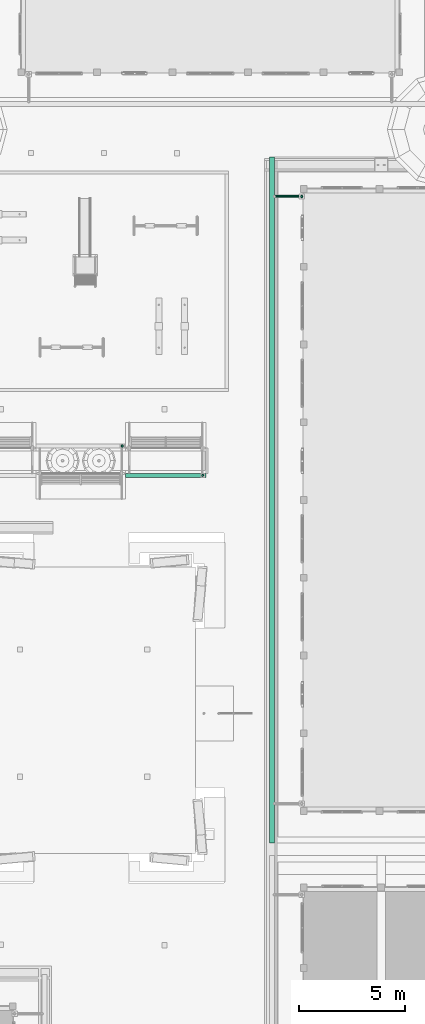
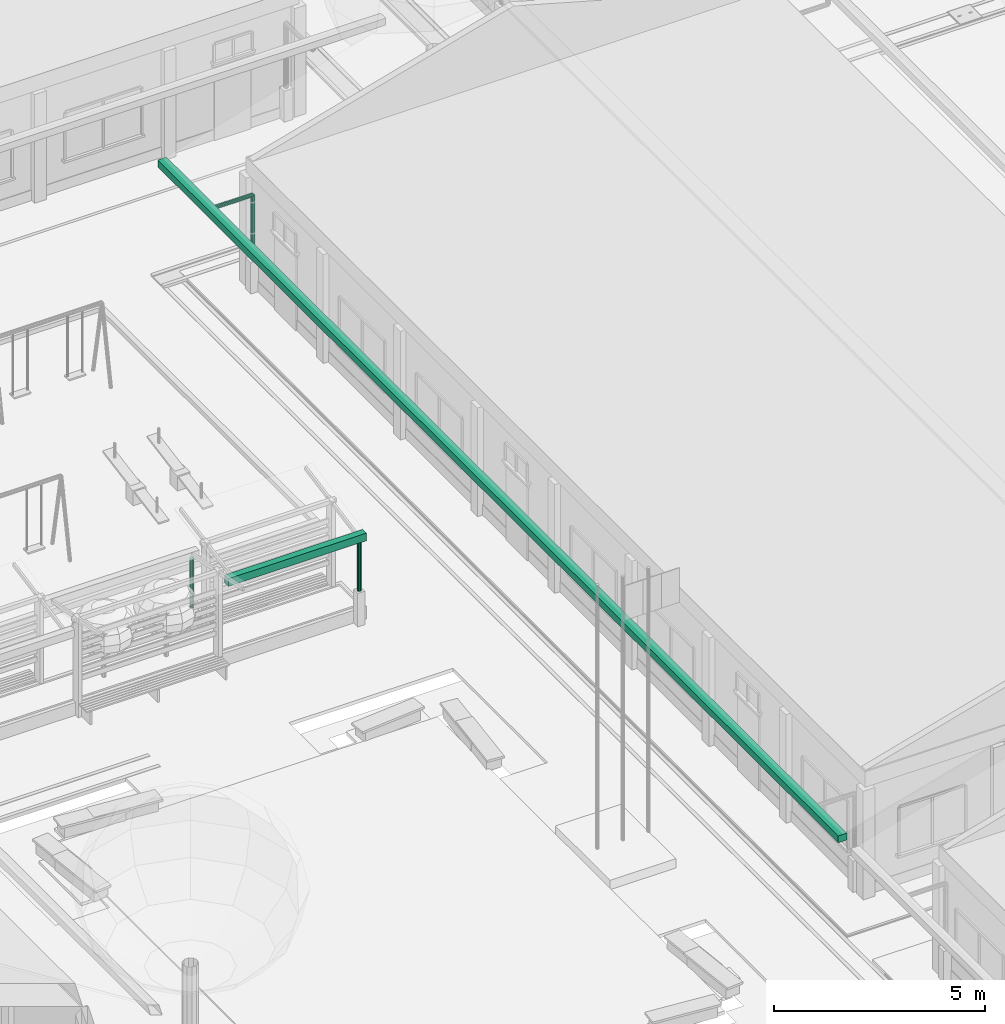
# One storey, part 107 of 177: 6 pipe segments.
"""IFC4 building model written with IfcOpenShell, lengths in metres."""

from ifc_helpers import new_model, si_unit, origin, origin_with_axes, place, context, subcontext, project, spatial, triangles, element, save


model = new_model("IFC4")

# Units and contexts
model_context = context("Model", 3, precision=1e-05, world=origin_with_axes())
body_context = subcontext(model_context, "Body", "Model", "MODEL_VIEW")
ifc_project = project(units=[si_unit("LENGTHUNIT", "METRE"), si_unit("AREAUNIT", "SQUARE_METRE"), si_unit("VOLUMEUNIT", "CUBIC_METRE"), si_unit("PLANEANGLEUNIT", "RADIAN")], contexts=[model_context])

# Site, building, storey
site_placement = place(None, origin_with_axes())
site = spatial("IfcSite", under=ifc_project, at=site_placement, Name="Predio Los Mangos - Morales, San Martín", CompositionType="ELEMENT")
building_placement = place(site_placement, origin())
building = spatial("IfcBuilding", under=site, at=building_placement, Name="Hogar de Refugio Temporal", CompositionType="ELEMENT")
storey_placement = place(building_placement, origin())
storey = spatial("IfcBuildingStorey", under=building, at=storey_placement, Name="NIVEL 1 (NPT +0.00)", CompositionType="ELEMENT", Elevation=0.0)

# Pipe segments
pipe_segment_1_placement = place(storey_placement, origin())
element("IfcPipeSegment", 1, at=pipe_segment_1_placement, inside=storey, Name="E-05_canaleta", ObjectType="Canaleta", PredefinedType="GUTTER", context=body_context, shape_type="Tessellation", body=[
    triangles([(43.68, 56.4, 3.13), (43.92, 56.4, 3.13), (43.92, 88.7, 3.13), (43.68, 88.7, 3.13), (43.68, 56.4, 3.33), (43.92, 56.4, 3.33), (43.92, 88.7, 3.33), (43.68, 88.7, 3.33)], [[1, 4, 3], [1, 3, 2], [5, 6, 7], [5, 7, 8], [1, 2, 6], [1, 6, 5], [2, 3, 7], [2, 7, 6], [3, 4, 8], [3, 8, 7], [4, 1, 5], [4, 5, 8]]),
])
pipe_segment_2_placement = place(storey_placement, origin())
element("IfcPipeSegment", 2, at=pipe_segment_2_placement, inside=storey, Name="montante_desvio", ObjectType="Montante PVC 4\"", PredefinedType="RIGIDSEGMENT", context=body_context, shape_type="Tessellation", body=[
    triangles([(43.92, 86.85, 2.965), (45.21, 86.85, 2.965), (43.92, 86.8775, 2.9576), (45.21, 86.8775, 2.9576), (43.92, 86.8976, 2.9375), (45.21, 86.8976, 2.9375), (43.92, 86.905, 2.91), (45.21, 86.905, 2.91), (43.92, 86.8976, 2.8825), (45.21, 86.8976, 2.8825), (43.92, 86.8775, 2.8624), (45.21, 86.8775, 2.8624), (43.92, 86.85, 2.855), (45.21, 86.85, 2.855), (43.92, 86.8225, 2.8624), (45.21, 86.8225, 2.8624), (43.92, 86.8024, 2.8825), (45.21, 86.8024, 2.8825), (43.92, 86.795, 2.91), (45.21, 86.795, 2.91), (43.92, 86.8024, 2.9375), (45.21, 86.8024, 2.9375), (43.92, 86.8225, 2.9576), (45.21, 86.8225, 2.9576)], [[1, 2, 4], [1, 4, 3], [3, 4, 6], [3, 6, 5], [5, 6, 8], [5, 8, 7], [7, 8, 10], [7, 10, 9], [9, 10, 12], [9, 12, 11], [11, 12, 14], [11, 14, 13], [13, 14, 16], [13, 16, 15], [15, 16, 18], [15, 18, 17], [17, 18, 20], [17, 20, 19], [19, 20, 22], [19, 22, 21], [6, 4, 2], [2, 24, 22], [22, 20, 18], [18, 16, 14], [14, 12, 10], [10, 8, 6], [6, 2, 22], [22, 18, 14], [14, 10, 6], [22, 14, 6], [21, 22, 24], [21, 24, 23], [23, 24, 2], [23, 2, 1], [23, 1, 3], [3, 5, 7], [7, 9, 11], [11, 13, 15], [15, 17, 19], [19, 21, 23], [23, 3, 7], [7, 11, 15], [15, 19, 23], [7, 15, 23]]),
])
pipe_segment_3_placement = place(storey_placement, origin())
element("IfcPipeSegment", 3, at=pipe_segment_3_placement, inside=storey, Name="montante_bajada", ObjectType="Montante PVC 4\"", PredefinedType="RIGIDSEGMENT", context=body_context, shape_type="Tessellation", body=[
    triangles([(45.21, 86.905, 2.91), (45.21, 86.905, 1.05), (45.1825, 86.8976, 2.91), (45.1825, 86.8976, 1.05), (45.1624, 86.8775, 2.91), (45.1624, 86.8775, 1.05), (45.155, 86.85, 2.91), (45.155, 86.85, 1.05), (45.1624, 86.8225, 2.91), (45.1624, 86.8225, 1.05), (45.1825, 86.8024, 2.91), (45.1825, 86.8024, 1.05), (45.21, 86.795, 2.91), (45.21, 86.795, 1.05), (45.2375, 86.8024, 2.91), (45.2375, 86.8024, 1.05), (45.2576, 86.8225, 2.91), (45.2576, 86.8225, 1.05), (45.265, 86.85, 2.91), (45.265, 86.85, 1.05), (45.2576, 86.8775, 2.91), (45.2576, 86.8775, 1.05), (45.2375, 86.8976, 2.91), (45.2375, 86.8976, 1.05)], [[1, 2, 4], [1, 4, 3], [3, 4, 6], [3, 6, 5], [5, 6, 8], [5, 8, 7], [7, 8, 10], [7, 10, 9], [9, 10, 12], [9, 12, 11], [11, 12, 14], [11, 14, 13], [13, 14, 16], [13, 16, 15], [15, 16, 18], [15, 18, 17], [17, 18, 20], [17, 20, 19], [19, 20, 22], [19, 22, 21], [6, 4, 2], [2, 24, 22], [22, 20, 18], [18, 16, 14], [14, 12, 10], [10, 8, 6], [6, 2, 22], [22, 18, 14], [14, 10, 6], [22, 14, 6], [21, 22, 24], [21, 24, 23], [23, 24, 2], [23, 2, 1], [23, 1, 3], [3, 5, 7], [7, 9, 11], [11, 13, 15], [15, 17, 19], [19, 21, 23], [23, 3, 7], [7, 11, 15], [15, 19, 23], [7, 15, 23]]),
])
pipe_segment_4_placement = place(storey_placement, origin())
element("IfcPipeSegment", 4, at=pipe_segment_4_placement, inside=storey, Name="oc01_canaleta", ObjectType="Canaleta", PredefinedType="GUTTER", context=body_context, shape_type="Tessellation", body=[
    triangles([(40.695, 73.8, 2.49), (36.905, 73.8, 2.49), (36.905, 73.62, 2.49), (40.695, 73.62, 2.49), (40.695, 73.8, 2.71), (36.905, 73.8, 2.71), (36.905, 73.62, 2.71), (40.695, 73.62, 2.71)], [[1, 4, 3], [1, 3, 2], [5, 6, 7], [5, 7, 8], [1, 2, 6], [1, 6, 5], [2, 3, 7], [2, 7, 6], [3, 4, 8], [3, 8, 7], [4, 1, 5], [4, 5, 8]]),
])
pipe_segment_5_placement = place(storey_placement, origin())
element("IfcPipeSegment", 5, at=pipe_segment_5_placement, inside=storey, Name="oc01_bajada", ObjectType="Montante PVC 4\"", PredefinedType="RIGIDSEGMENT", context=body_context, shape_type="Tessellation", body=[
    triangles([(40.545, 73.765, 2.49), (40.545, 73.765, 1.05), (40.5175, 73.7576, 2.49), (40.5175, 73.7576, 1.05), (40.4974, 73.7375, 2.49), (40.4974, 73.7375, 1.05), (40.49, 73.71, 2.49), (40.49, 73.71, 1.05), (40.4974, 73.6825, 2.49), (40.4974, 73.6825, 1.05), (40.5175, 73.6624, 2.49), (40.5175, 73.6624, 1.05), (40.545, 73.655, 2.49), (40.545, 73.655, 1.05), (40.5725, 73.6624, 2.49), (40.5725, 73.6624, 1.05), (40.5926, 73.6825, 2.49), (40.5926, 73.6825, 1.05), (40.6, 73.71, 2.49), (40.6, 73.71, 1.05), (40.5926, 73.7375, 2.49), (40.5926, 73.7375, 1.05), (40.5725, 73.7576, 2.49), (40.5725, 73.7576, 1.05)], [[1, 2, 4], [1, 4, 3], [3, 4, 6], [3, 6, 5], [5, 6, 8], [5, 8, 7], [7, 8, 10], [7, 10, 9], [9, 10, 12], [9, 12, 11], [11, 12, 14], [11, 14, 13], [13, 14, 16], [13, 16, 15], [15, 16, 18], [15, 18, 17], [17, 18, 20], [17, 20, 19], [19, 20, 22], [19, 22, 21], [6, 4, 2], [2, 24, 22], [22, 20, 18], [18, 16, 14], [14, 12, 10], [10, 8, 6], [6, 2, 22], [22, 18, 14], [14, 10, 6], [22, 14, 6], [21, 22, 24], [21, 24, 23], [23, 24, 2], [23, 2, 1], [23, 1, 3], [3, 5, 7], [7, 9, 11], [11, 13, 15], [15, 17, 19], [19, 21, 23], [23, 3, 7], [7, 11, 15], [15, 19, 23], [7, 15, 23]]),
])
pipe_segment_6_placement = place(storey_placement, origin())
element("IfcPipeSegment", 6, at=pipe_segment_6_placement, inside=storey, Name="oc01_bajada", ObjectType="Montante PVC 4\"", PredefinedType="RIGIDSEGMENT", context=body_context, shape_type="Tessellation", body=[
    triangles([(36.755, 75.145, 2.49), (36.755, 75.145, 1.05), (36.7275, 75.1376, 2.49), (36.7275, 75.1376, 1.05), (36.7074, 75.1175, 2.49), (36.7074, 75.1175, 1.05), (36.7, 75.09, 2.49), (36.7, 75.09, 1.05), (36.7074, 75.0625, 2.49), (36.7074, 75.0625, 1.05), (36.7275, 75.0424, 2.49), (36.7275, 75.0424, 1.05), (36.755, 75.035, 2.49), (36.755, 75.035, 1.05), (36.7825, 75.0424, 2.49), (36.7825, 75.0424, 1.05), (36.8026, 75.0625, 2.49), (36.8026, 75.0625, 1.05), (36.81, 75.09, 2.49), (36.81, 75.09, 1.05), (36.8026, 75.1175, 2.49), (36.8026, 75.1175, 1.05), (36.7825, 75.1376, 2.49), (36.7825, 75.1376, 1.05)], [[1, 2, 4], [1, 4, 3], [3, 4, 6], [3, 6, 5], [5, 6, 8], [5, 8, 7], [7, 8, 10], [7, 10, 9], [9, 10, 12], [9, 12, 11], [11, 12, 14], [11, 14, 13], [13, 14, 16], [13, 16, 15], [15, 16, 18], [15, 18, 17], [17, 18, 20], [17, 20, 19], [19, 20, 22], [19, 22, 21], [6, 4, 2], [2, 24, 22], [22, 20, 18], [18, 16, 14], [14, 12, 10], [10, 8, 6], [6, 2, 22], [22, 18, 14], [14, 10, 6], [22, 14, 6], [21, 22, 24], [21, 24, 23], [23, 24, 2], [23, 2, 1], [23, 1, 3], [3, 5, 7], [7, 9, 11], [11, 13, 15], [15, 17, 19], [19, 21, 23], [23, 3, 7], [7, 11, 15], [15, 19, 23], [7, 15, 23]]),
])

save(model, "model.ifc")
